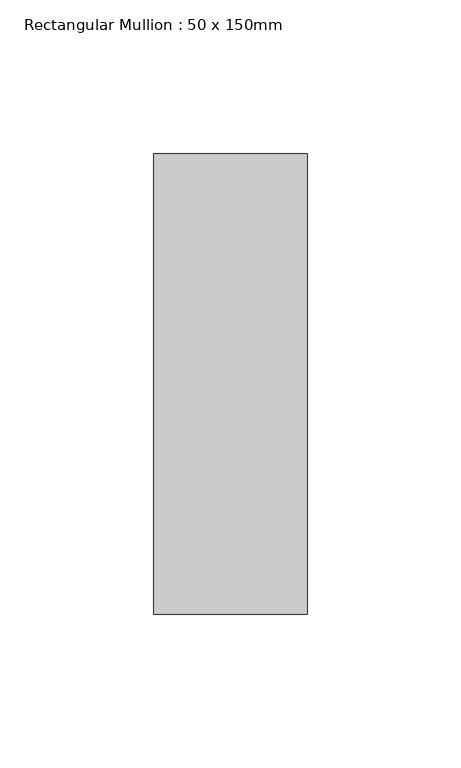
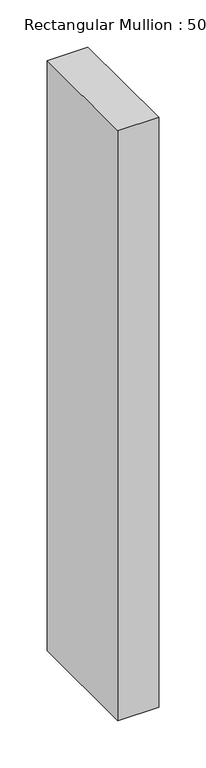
"""IFC4 building model written with IfcOpenShell, lengths in millimetres: member geometry, Rectangular Mullion : 50 x 150mm."""

import ifcopenshell
import ifcopenshell.guid

model = None  # the IFC model being written
_history = None  # IfcOwnerHistory: only IFC2X3 demands one
_inside = {}  # id of a spatial element -> (the spatial element, [elements in it])
_under = {}  # id of a project, library or spatial element -> (it, [spatial elements below it])
_declared = {}  # id of a project -> (the project, [libraries it declares])
_typed = {}  # id of a type object -> (the type object, [elements of that type])
_made_of = {}  # id of a material, layer set ... -> (it, [elements and type objects made of it])


def new_model(schema):
    """Start an empty IFC model of exactly this schema.

    Asked for "IFC4X3", IfcOpenShell would pick the latest addendum, in which some entities
    have other attributes; the version numbers below select the first issue.
    IFC2X3 requires an IfcOwnerHistory on every rooted entity: one is made here for all.
    """
    global model, _history
    if schema == "IFC4X3":
        model = ifcopenshell.file(schema_version=(4, 3, 0, 0))
    else:
        model = ifcopenshell.file(schema=schema)
    _inside.clear()
    _under.clear()
    _declared.clear()
    _typed.clear()
    _made_of.clear()
    _history = None
    if model.schema == "IFC2X3":
        org = make("IfcOrganization", Name="unknown")
        user = make(
            "IfcPersonAndOrganization",
            ThePerson=make("IfcPerson", FamilyName="unknown"),
            TheOrganization=org,
        )
        app = make(
            "IfcApplication",
            ApplicationDeveloper=org,
            Version="unknown",
            ApplicationFullName="unknown",
            ApplicationIdentifier="unknown",
        )
        _history = make(
            "IfcOwnerHistory",
            OwningUser=user,
            OwningApplication=app,
            ChangeAction="ADDED",
            CreationDate=0,
        )
    return model


def make(cls, **values):
    """One entity of the class cls with the attributes given. An attribute that is None is left unset."""
    return model.create_entity(
        cls, **{name: value for name, value in values.items() if value is not None}
    )


def rooted(cls, **values):
    """An entity with a GlobalId (a new one), such as an element, a storey or a relation."""
    return make(cls, GlobalId=ifcopenshell.guid.new(), OwnerHistory=_history, **values)


def si_unit(unit_type, name, prefix=None):
    """IfcSIUnit, for example si_unit("LENGTHUNIT", "METRE", prefix="MILLI")."""
    return make("IfcSIUnit", UnitType=unit_type, Prefix=prefix, Name=name)


def assignment(units):
    """IfcUnitAssignment: the units of a project."""
    return None if units is None else make("IfcUnitAssignment", Units=units)


def point(xyz):
    """IfcCartesianPoint."""
    return None if xyz is None else make("IfcCartesianPoint", Coordinates=xyz)


def direction(xyz):
    """IfcDirection."""
    return None if xyz is None else make("IfcDirection", DirectionRatios=xyz)


def frame(location, z_axis=None, x_axis=None):
    """IfcAxis2Placement3D, a coordinate frame: its origin and axes. An axis left out is left unset."""
    return make(
        "IfcAxis2Placement3D",
        Location=point(location),
        Axis=direction(z_axis),
        RefDirection=direction(x_axis),
    )


def origin():
    """The frame at (0, 0, 0) with its axes left unset."""
    return frame((0.0, 0.0, 0.0))


def place(relative_to, where):
    """IfcLocalPlacement: puts the frame where relative to a parent placement (None: the world)."""
    return make(
        "IfcLocalPlacement", PlacementRelTo=relative_to, RelativePlacement=where
    )


def context(
    kind, dimensions, precision=None, world=None, true_north=None, identifier=None
):
    """IfcGeometricRepresentationContext, for example the 3D "Model" context."""
    return make(
        "IfcGeometricRepresentationContext",
        ContextIdentifier=identifier,
        ContextType=kind,
        CoordinateSpaceDimension=dimensions,
        Precision=precision,
        WorldCoordinateSystem=world,
        TrueNorth=true_north,
    )


def project(units=None, contexts=None):
    """IfcProject with its units and contexts."""
    return rooted(
        "IfcProject",
        Name="project",
        RepresentationContexts=contexts,
        UnitsInContext=assignment(units),
    )


def spatial(cls, under=None, at=None, **own):
    """A site, building, storey or space (cls), placed at a placement, below another one or the project."""
    s = rooted(cls, ObjectPlacement=at, **own)
    if under is not None:
        _under.setdefault(under.id(), (under, []))[1].append(s)
    return s


def polyline(points):
    """IfcPolyline through the points."""
    return make("IfcPolyline", Points=[point(p) for p in points])


def outline(outer, holes=None, kind="AREA"):
    """IfcArbitraryClosedProfileDef: a profile drawn as a closed curve; with holes, ...WithVoids."""
    if holes is None:
        return make("IfcArbitraryClosedProfileDef", ProfileType=kind, OuterCurve=outer)
    return make(
        "IfcArbitraryProfileDefWithVoids",
        ProfileType=kind,
        OuterCurve=outer,
        InnerCurves=holes,
    )


def extrude(swept, where, along, depth):
    """IfcExtrudedAreaSolid: the profile swept, set in the frame where, extruded along a direction by depth."""
    return make(
        "IfcExtrudedAreaSolid",
        SweptArea=swept,
        Position=where,
        ExtrudedDirection=direction(along),
        Depth=depth,
    )


def shape(context_of_items, identifier, shape_type, items):
    """IfcShapeRepresentation: the items that make up one representation, for example the "Body"."""
    return make(
        "IfcShapeRepresentation",
        ContextOfItems=context_of_items,
        RepresentationIdentifier=identifier,
        RepresentationType=shape_type,
        Items=items,
    )


def source(mapping_origin, context_of_items, identifier, shape_type, items):
    """IfcRepresentationMap: a shape defined once, which mapped items show again and again."""
    return make(
        "IfcRepresentationMap",
        MappingOrigin=mapping_origin,
        MappedRepresentation=shape(context_of_items, identifier, shape_type, items),
    )


def transform(
    local_origin,
    x_axis=None,
    y_axis=None,
    z_axis=None,
    scale=None,
    scale2=None,
    scale3=None,
    uniform=True,
):
    """IfcCartesianTransformationOperator3D, or its non-uniform kind. x_axis, y_axis, z_axis: its Axis1, 2, 3."""
    if uniform:
        return make(
            "IfcCartesianTransformationOperator3D",
            Axis1=direction(x_axis),
            Axis2=direction(y_axis),
            LocalOrigin=point(local_origin),
            Scale=scale,
            Axis3=direction(z_axis),
        )
    return make(
        "IfcCartesianTransformationOperator3DnonUniform",
        Axis1=direction(x_axis),
        Axis2=direction(y_axis),
        LocalOrigin=point(local_origin),
        Scale=scale,
        Axis3=direction(z_axis),
        Scale2=scale2,
        Scale3=scale3,
    )


def mapped(mapping_source, mapping_target):
    """IfcMappedItem: shows the shape of a source again, moved by a transform."""
    return make(
        "IfcMappedItem", MappingSource=mapping_source, MappingTarget=mapping_target
    )


def made_of(thing, what):
    """Note that an element or type object is made of a material, layer set ...; save() writes the relation."""
    if what is not None:
        _made_of.setdefault(what.id(), (what, []))[1].append(thing)
    return thing


def element(
    cls,
    number,
    at=None,
    inside=None,
    cuts=None,
    type_object=None,
    material=None,
    context=None,
    identifier="Body",
    shape_type=None,
    held_by="IfcProductDefinitionShape",
    body=None,
    shapes=None,
    **own,
):
    """One element of the class cls, such as IfcWall. Its Tag is "e" and its number.

    at: its placement. inside: the storey or other place that contains it. cuts: it is an
    opening in that element (IfcRelVoidsElement). A single representation is given by context,
    identifier, shape_type and body (its items); several are given by shapes. held_by: the class
    of the entity that holds the representations. save() writes the other relations.
    """
    e = rooted(cls, Tag="e%d" % number, ObjectPlacement=at, **own)
    if body is not None:
        shapes = [shape(context, identifier, shape_type, body)]
    if shapes is not None:
        e.Representation = make(held_by, Representations=shapes)
    if inside is not None:
        _inside.setdefault(inside.id(), (inside, []))[1].append(e)
    if cuts is not None:
        rooted(
            "IfcRelVoidsElement", RelatingBuildingElement=cuts, RelatedOpeningElement=e
        )
    if type_object is not None:
        _typed.setdefault(type_object.id(), (type_object, []))[1].append(e)
    return made_of(e, material)


def aggregate(whole, parts):
    """IfcRelAggregates: a whole, such as a stair, and the parts it consists of."""
    return rooted("IfcRelAggregates", RelatingObject=whole, RelatedObjects=parts)


def save(model, path):
    """Write the relations noted so far, then the file.

    IfcRelAggregates (storeys below a building ...), IfcRelContainedInSpatialStructure (elements
    in a storey), IfcRelDefinesByType, IfcRelAssociatesMaterial and IfcRelDeclares: one each for
    every whole, place, type object, material and project.
    """
    for whole, parts in _under.values():
        aggregate(whole, parts)
    for where, things in _inside.values():
        rooted(
            "IfcRelContainedInSpatialStructure",
            RelatedElements=things,
            RelatingStructure=where,
        )
    for kind, things in _typed.values():
        rooted("IfcRelDefinesByType", RelatedObjects=things, RelatingType=kind)
    for what, things in _made_of.values():
        rooted("IfcRelAssociatesMaterial", RelatedObjects=things, RelatingMaterial=what)
    for by, libraries in _declared.values():
        rooted("IfcRelDeclares", RelatingContext=by, RelatedDefinitions=libraries)
    model.write(path)


def rectangular_mullion_50_x_150mm_97641222(model_context):
    return source(origin(), model_context, "Body", "SweptSolid", [
        extrude(outline(polyline([(0.0, 75.0), (0.0, -75.0), (-50.0, -75.0), (-50.0, 75.0), (0.0, 75.0)])), frame((0.0, 0.0, -763.5076433), z_axis=(0.0, 0.0, 1.0), x_axis=(1.0, 0.0, 0.0)), (0.0, 0.0, 1.0), 763.5076433),
    ])


if __name__ == "__main__":
    model = new_model("IFC4")
    model_context = context("Model", 3, world=origin())
    ifc_project = project(units=[si_unit("LENGTHUNIT", "METRE", prefix="MILLI")], contexts=[model_context])
    site = spatial("IfcSite", under=ifc_project)
    building = spatial("IfcBuilding", under=site)
    placement = place(None, origin())
    rectangular_mullion_50_x_150mm_shape = rectangular_mullion_50_x_150mm_97641222(model_context)
    element("IfcMember", 1, ObjectType="Rectangular Mullion : 50 x 150mm", at=placement, inside=building, context=model_context, shape_type="MappedRepresentation", body=[
        mapped(rectangular_mullion_50_x_150mm_shape, transform((0.0, 0.0, 0.0), x_axis=(1.0, 0.0, 0.0), y_axis=(0.0, 1.0, 0.0), z_axis=(0.0, 0.0, 1.0))),
    ])
    save(model, "model.ifc")
